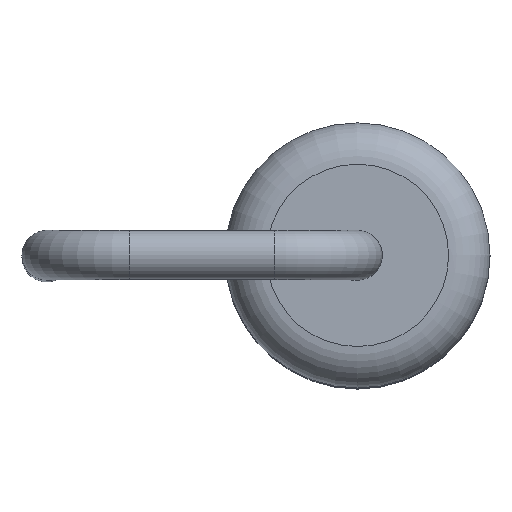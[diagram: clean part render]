
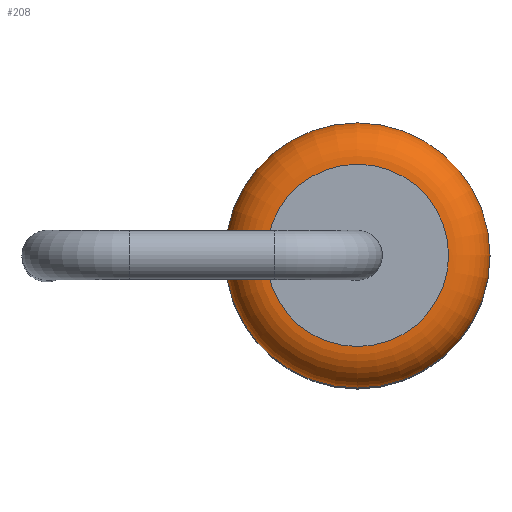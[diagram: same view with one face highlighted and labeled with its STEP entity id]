
A CAD part, top view. The second image highlights one B-rep face of the part: STEP entity #208.
In plain terms, the highlighted toroidal (fillet/blend) face has major radius 1.1 mm and minor radius 0.5 mm.
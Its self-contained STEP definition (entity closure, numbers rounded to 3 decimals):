
#208=ADVANCED_FACE('',(#377,#379),#381,.T.);
#377=FACE_OUTER_BOUND('',#378,.T.);
#378=EDGE_LOOP('',(#468));
#379=FACE_OUTER_BOUND('',#380,.T.);
#380=EDGE_LOOP('',(#469));
#381=TOROIDAL_SURFACE('',#382,1.1,0.5);
#382=AXIS2_PLACEMENT_3D('',#383,#384,#385);
#383=CARTESIAN_POINT('',(0.,0.,4.));
#384=DIRECTION('',(0.,0.,1.));
#385=DIRECTION('',(1.,0.,0.));
#468=ORIENTED_EDGE('',*,*,#493,.T.);
#469=ORIENTED_EDGE('',*,*,#494,.F.);
#493=EDGE_CURVE('',#521,#521,#522,.T.);
#494=EDGE_CURVE('',#523,#523,#524,.T.);
#521=VERTEX_POINT('',#587);
#522=CIRCLE('',#588,1.6);
#523=VERTEX_POINT('',#592);
#524=CIRCLE('',#593,1.1);
#587=CARTESIAN_POINT('',(1.6,0.,4.));
#588=AXIS2_PLACEMENT_3D('',#589,#590,#591);
#589=CARTESIAN_POINT('',(0.,0.,4.));
#590=DIRECTION('',(0.,0.,1.));
#591=DIRECTION('',(1.,0.,0.));
#592=CARTESIAN_POINT('',(1.1,0.,4.5));
#593=AXIS2_PLACEMENT_3D('',#594,#595,#596);
#594=CARTESIAN_POINT('',(0.,0.,4.5));
#595=DIRECTION('',(0.,0.,1.));
#596=DIRECTION('',(1.,0.,0.));
